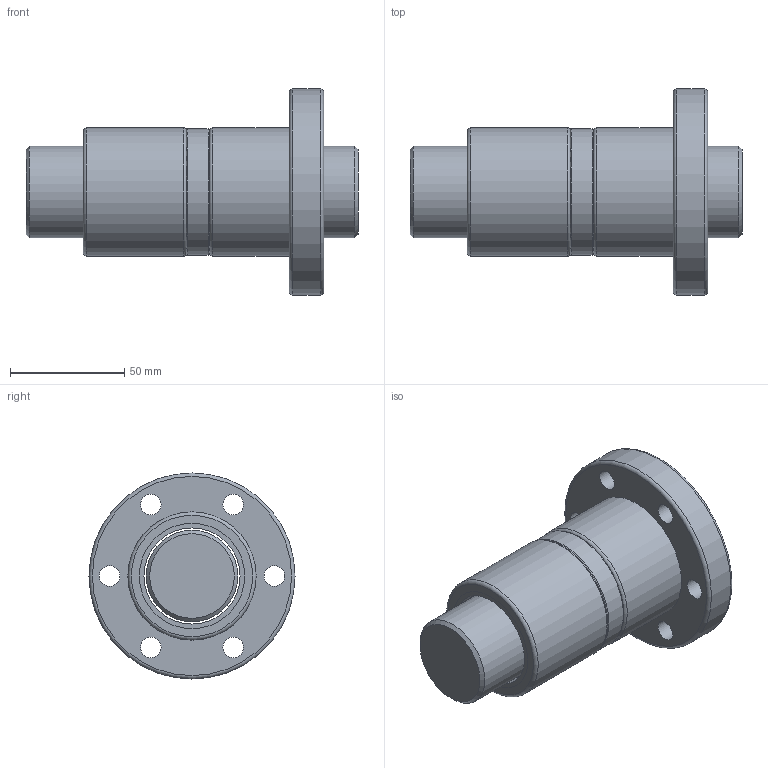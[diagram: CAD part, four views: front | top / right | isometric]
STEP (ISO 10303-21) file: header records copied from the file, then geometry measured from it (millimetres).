
FILE_DESCRIPTION(/* description */ (''),/* implementation_level */ '2;1');
FILE_NAME(/* name */ 'DFI4005',/* time_stamp */ '2007-10-26T11:51:55+08:00',/* author */ (''),/* organization */ (''),/* preprocessor_version */ 'ST-DEVELOPER v9',/* originating_system */ 'EDS PLM SOLUTIONS - UNIGRAPHICS NX 1.0',/* authorisation */ '');
FILE_SCHEMA (('CONFIG_CONTROL_DESIGN'));
Length unit declared in the file: millimetre
Products named in the file (1): FANNDA0400ft
Bounding box: 145 x 90 x 90 mm (x, y, z)
Volume: 342123.2 mm3; surface area: 74966.7 mm2
Topology: 6 solids, 6 shells, 56 faces, 101 edges, 66 vertices
Faces by surface type: cylinder 26, plane 21, torus 7, cone 2
Full cylindrical faces by diameter (mm): 9 x6, 14 x6, 40 x1, 42 x5, 46 x4, 55.3 x1, 56 x2, 90 x1
Entity records: 1294 total; most frequent: DIRECTION 236, CARTESIAN_POINT 179, EDGE_LOOP 122, ORIENTED_EDGE 122, AXIS2_PLACEMENT_3D 118, FACE_BOUND 99, VERTEX_POINT 61, EDGE_CURVE 61
